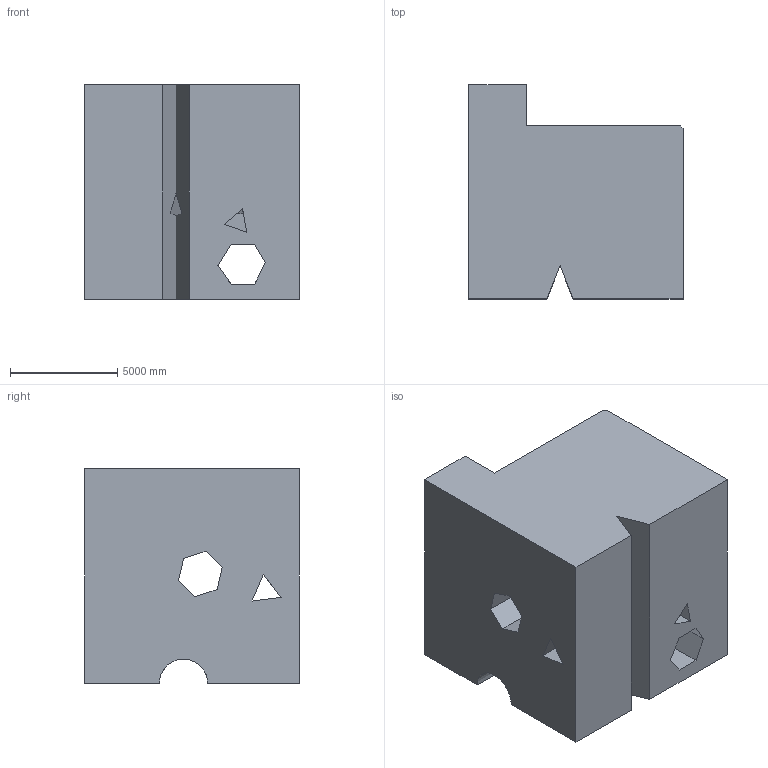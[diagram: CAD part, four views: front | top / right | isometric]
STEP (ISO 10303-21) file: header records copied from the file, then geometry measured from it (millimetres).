
FILE_DESCRIPTION (( 'STEP AP203' ), '1' );
FILE_NAME ('1947.STEP', '2022-08-25T16:51:01', ( 'user' ), ( '' ), 'SwSTEP 2.0', 'SolidWorks 2021', '' );
FILE_SCHEMA (( 'CONFIG_CONTROL_DESIGN' ));
Length unit declared in the file: centimetre
Products named in the file (1): 1947
Bounding box: 10000 x 10000 x 10000 mm (x, y, z)
Volume: 724387853841.2 mm3; surface area: 766822846.8 mm2
Topology: 1 solids, 1 shells, 44 faces, 138 edges, 92 vertices
Faces by surface type: plane 39, cylinder 5
Entity records: 1800 total; most frequent: CARTESIAN_POINT 494, ORIENTED_EDGE 276, DIRECTION 225, EDGE_CURVE 138, VECTOR 119, LINE 119, VERTEX_POINT 92, AXIS2_PLACEMENT_3D 53
